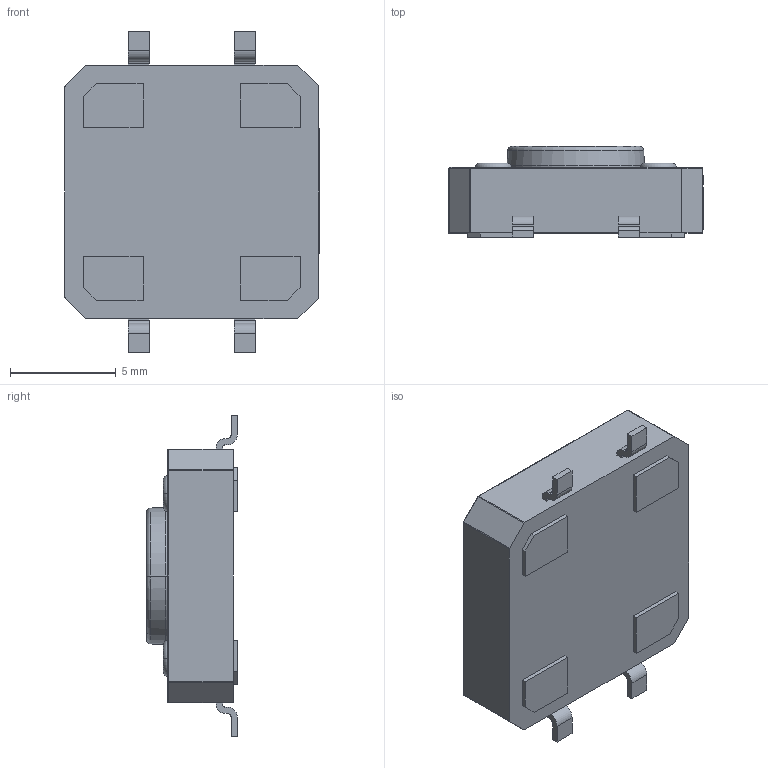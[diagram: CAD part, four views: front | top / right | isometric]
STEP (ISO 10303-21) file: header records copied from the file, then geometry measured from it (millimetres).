
FILE_DESCRIPTION((''),'2;1');
FILE_NAME('ASM0024_ASM','2024-01-04T',('WYH'),(''),'PRO/ENGINEER BY PARAMETRIC TECHNOLOGY CORPORATION, 2013040','PRO/ENGINEER BY PARAMETRIC TECHNOLOGY CORPORATION, 2013040','');
FILE_SCHEMA(('CONFIG_CONTROL_DESIGN'));
Length unit declared in the file: millimetre
Products named in the file (1): ASM0024_ASM
Bounding box: 12.02 x 4.3 x 15.2 mm (x, y, z)
Volume: 456.4 mm3; surface area: 676 mm2
Topology: 1 solids, 1 shells, 215 faces, 575 edges, 370 vertices
Faces by surface type: plane 135, cylinder 56, sphere 12, torus 10, cone 2
Entity records: 6653 total; most frequent: DIRECTION 1159, CARTESIAN_POINT 1148, ORIENTED_EDGE 1126, EDGE_CURVE 563, VECTOR 397, LINE 397, AXIS2_PLACEMENT_3D 381, VERTEX_POINT 370
